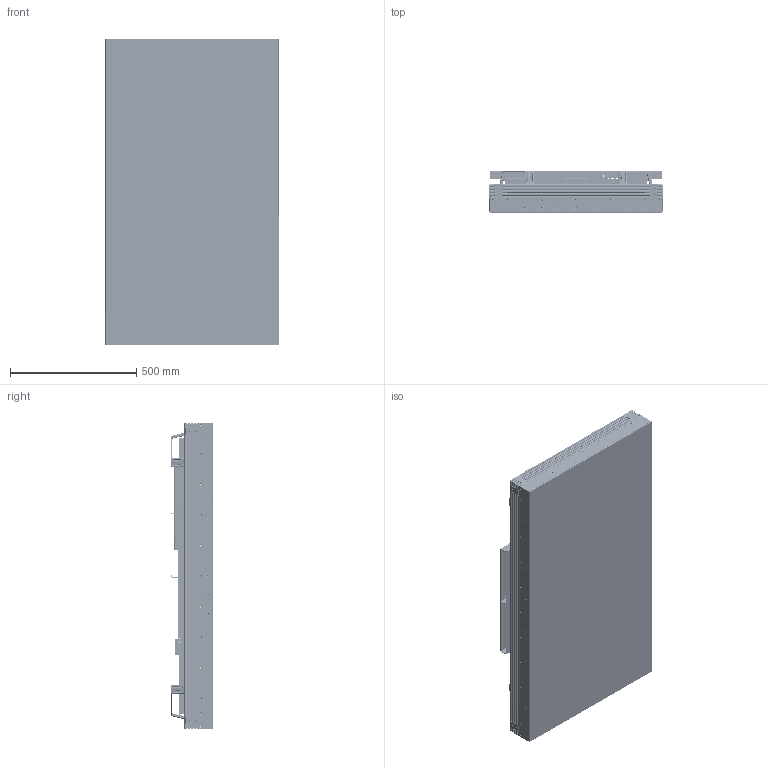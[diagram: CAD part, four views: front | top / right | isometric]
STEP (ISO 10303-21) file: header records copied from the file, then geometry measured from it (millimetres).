
FILE_DESCRIPTION(/* description */ (''),/* implementation_level */ '2;1');
FILE_NAME(/* name */ 'C:/Users/Juuso/Downloads/MultiTaction MT556XNBlandscapeAirD.STEP/MT557DwithLandscapeAirChannel.step',/* time_stamp */ '2020-12-11T10:37:10+02:00',/* author */ (''),/* organization */ (''),/* preprocessor_version */ 'ST-DEVELOPER v18.1',/* originating_system */ 'Autodesk Translation Framework v9.7.1.1290',/* authorisation */ '');
FILE_SCHEMA (('AUTOMOTIVE_DESIGN { 1 0 10303 214 3 1 1 }'));
Products named in the file (53): MT0901271RIGIDshell; MT0901270_MT557D Display BL Assy; MT0901269_MT557D Base Fame Assy; MT0601287; MT0601286_MT0601058; MT0601285_MT0601057; MT0601166; MT0601167; MT0601165; MT0601060_MT0601060; MT0601059_MT0601059; MT0901090; MT0601070; MT0601080; MT0901107; MT0601071; 060620_060620_494mm; MT0901108; MT0901108 (1); MT0601072; 060620_060620_535mm; MT0901119; MT0601102; MT1601093_MT1601093; 060620_060620_429mm; 060620_060620_348mm; 060620_060620_283mm; MT1601014; MT1601074; Component89; Component90; Component91; Component92; Component93; Component94; MT0601171; MT0601294; MT0601289; MT0601288; MT0701010_Front Glas with Side Mask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
Assembly tree (136 placements, depth 4):
  MT0901271RIGIDshell
    MT0901270_MT557D Display BL Assy
      MT0901269_MT557D Base Fame Assy
        MT0601287
        MT0601286_MT0601058
        MT0601285_MT0601057
        MT0601166
        MT0601167
        MT0601165
        MT0601060_MT0601060
        MT0601059_MT0601059
        MT0901090
      MT0601070  x4
      MT0601080  x4
      MT0901107
        MT0601071
        MT1601093_MT1601093  x6
        060620_060620_494mm
        060620_060620_283mm  x2
      MT0901108
        MT0601072
        MT1601093_MT1601093  x5
        060620_060620_535mm
      MT0901108 (1)
        MT0601072
        MT1601093_MT1601093  x5
        060620_060620_535mm
      MT0901119
        MT0601102
        MT1601093_MT1601093  x8
        060620_060620_429mm
        060620_060620_348mm
        060620_060620_283mm
      MT1601014  x16
      MT1601074  x28
    Component89
    Component90
    Component91
    Component92
    Component93
    Component94
    Component95  x2
    Component96  x2
    MT0601171
    MT0601294
    MT0601289
    MT0601288
    MT0701010_Front Glas with Side Mask
      MT0701008_Protection Glass (1)
    Spacerplate
      Component1
    Spacerplate_1
      Component1
    Spacerplate_2
      Component1
    Spacerplate_3
      Component1
    Spacerplate_4
      Component1
    Spacerplate_5
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Bounding box: 686.69 x 166.65 x 1215.89 mm (x, y, z)
Volume: 7677411.3 mm3; surface area: 6743800.6 mm2
Topology: 124 solids, 124 shells, 16841 faces, 46168 edges, 30092 vertices
Faces by surface type: plane 12943, cylinder 2712, torus 486, bspline 335, cone 333, sphere 32
Full cylindrical faces by diameter (mm): 2.05 x58, 2.5 x54, 3.2 x90, 3.3 x74, 3.4 x16, 3.7 x38, 4.1 x24, 4.2 x44, 4.5 x78, 5 x53, 5.4 x52, 5.41 x2, 5.5 x56, 6.5 x60, 6.6 x32, 6.8 x28, 7 x2, 7.5 x18, 7.95 x24, 8.5 x59, 9 x4, 9.5 x28, 10 x38, 11 x28
Entity records: 476158 total; most frequent: CARTESIAN_POINT 102918, ORIENTED_EDGE 76152, DIRECTION 70200, EDGE_CURVE 38076, LINE 32210, VECTOR 32210, VERTEX_POINT 24853, AXIS2_PLACEMENT_3D 18995
